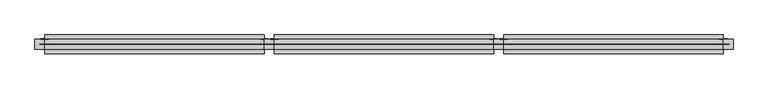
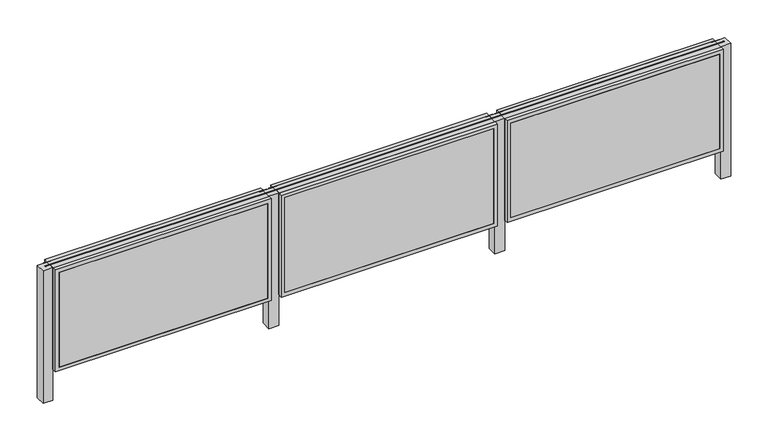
"""IFC4 building model written with IfcOpenShell, lengths in millimetres: railing geometry, NBS_MobilaneUK_CompFncPnls_NoiStop_Wood."""

import ifcopenshell
import ifcopenshell.guid

model = None  # the IFC model being written
_history = None  # IfcOwnerHistory: only IFC2X3 demands one
_inside = {}  # id of a spatial element -> (the spatial element, [elements in it])
_under = {}  # id of a project, library or spatial element -> (it, [spatial elements below it])
_declared = {}  # id of a project -> (the project, [libraries it declares])
_typed = {}  # id of a type object -> (the type object, [elements of that type])
_made_of = {}  # id of a material, layer set ... -> (it, [elements and type objects made of it])


def new_model(schema):
    """Start an empty IFC model of exactly this schema.

    Asked for "IFC4X3", IfcOpenShell would pick the latest addendum, in which some entities
    have other attributes; the version numbers below select the first issue.
    IFC2X3 requires an IfcOwnerHistory on every rooted entity: one is made here for all.
    """
    global model, _history
    if schema == "IFC4X3":
        model = ifcopenshell.file(schema_version=(4, 3, 0, 0))
    else:
        model = ifcopenshell.file(schema=schema)
    _inside.clear()
    _under.clear()
    _declared.clear()
    _typed.clear()
    _made_of.clear()
    _history = None
    if model.schema == "IFC2X3":
        org = make("IfcOrganization", Name="unknown")
        user = make(
            "IfcPersonAndOrganization",
            ThePerson=make("IfcPerson", FamilyName="unknown"),
            TheOrganization=org,
        )
        app = make(
            "IfcApplication",
            ApplicationDeveloper=org,
            Version="unknown",
            ApplicationFullName="unknown",
            ApplicationIdentifier="unknown",
        )
        _history = make(
            "IfcOwnerHistory",
            OwningUser=user,
            OwningApplication=app,
            ChangeAction="ADDED",
            CreationDate=0,
        )
    return model


def make(cls, **values):
    """One entity of the class cls with the attributes given. An attribute that is None is left unset."""
    return model.create_entity(
        cls, **{name: value for name, value in values.items() if value is not None}
    )


def rooted(cls, **values):
    """An entity with a GlobalId (a new one), such as an element, a storey or a relation."""
    return make(cls, GlobalId=ifcopenshell.guid.new(), OwnerHistory=_history, **values)


def si_unit(unit_type, name, prefix=None):
    """IfcSIUnit, for example si_unit("LENGTHUNIT", "METRE", prefix="MILLI")."""
    return make("IfcSIUnit", UnitType=unit_type, Prefix=prefix, Name=name)


def assignment(units):
    """IfcUnitAssignment: the units of a project."""
    return None if units is None else make("IfcUnitAssignment", Units=units)


def point(xyz):
    """IfcCartesianPoint."""
    return None if xyz is None else make("IfcCartesianPoint", Coordinates=xyz)


def direction(xyz):
    """IfcDirection."""
    return None if xyz is None else make("IfcDirection", DirectionRatios=xyz)


def frame(location, z_axis=None, x_axis=None):
    """IfcAxis2Placement3D, a coordinate frame: its origin and axes. An axis left out is left unset."""
    return make(
        "IfcAxis2Placement3D",
        Location=point(location),
        Axis=direction(z_axis),
        RefDirection=direction(x_axis),
    )


def frame_2d(location, x_axis=None):
    """IfcAxis2Placement2D, a coordinate frame in the plane: its origin and x axis."""
    return make(
        "IfcAxis2Placement2D", Location=point(location), RefDirection=direction(x_axis)
    )


def origin():
    """The frame at (0, 0, 0) with its axes left unset."""
    return frame((0.0, 0.0, 0.0))


def origin_with_axes():
    """The frame at (0, 0, 0) with the z axis (0, 0, 1) and the x axis (1, 0, 0) written out."""
    return frame((0.0, 0.0, 0.0), z_axis=(0.0, 0.0, 1.0), x_axis=(1.0, 0.0, 0.0))


def place(relative_to, where):
    """IfcLocalPlacement: puts the frame where relative to a parent placement (None: the world)."""
    return make(
        "IfcLocalPlacement", PlacementRelTo=relative_to, RelativePlacement=where
    )


def context(
    kind, dimensions, precision=None, world=None, true_north=None, identifier=None
):
    """IfcGeometricRepresentationContext, for example the 3D "Model" context."""
    return make(
        "IfcGeometricRepresentationContext",
        ContextIdentifier=identifier,
        ContextType=kind,
        CoordinateSpaceDimension=dimensions,
        Precision=precision,
        WorldCoordinateSystem=world,
        TrueNorth=true_north,
    )


def project(units=None, contexts=None):
    """IfcProject with its units and contexts."""
    return rooted(
        "IfcProject",
        Name="project",
        RepresentationContexts=contexts,
        UnitsInContext=assignment(units),
    )


def spatial(cls, under=None, at=None, **own):
    """A site, building, storey or space (cls), placed at a placement, below another one or the project."""
    s = rooted(cls, ObjectPlacement=at, **own)
    if under is not None:
        _under.setdefault(under.id(), (under, []))[1].append(s)
    return s


def polyline(points):
    """IfcPolyline through the points."""
    return make("IfcPolyline", Points=[point(p) for p in points])


def circle_curve(where, radius):
    """IfcCircle in the frame where."""
    return make("IfcCircle", Position=where, Radius=radius)


def trimmed(basis, trim1, trim2, sense, master):
    """IfcTrimmedCurve: the piece of a basis curve between two trims."""
    return make(
        "IfcTrimmedCurve",
        BasisCurve=basis,
        Trim1=trim1,
        Trim2=trim2,
        SenseAgreement=sense,
        MasterRepresentation=master,
    )


def segment(curve, same_sense, transition):
    """IfcCompositeCurveSegment."""
    return make(
        "IfcCompositeCurveSegment",
        Transition=transition,
        SameSense=same_sense,
        ParentCurve=curve,
    )


def composite_curve(segments, self_intersect=None):
    """IfcCompositeCurve: segments joined end to end."""
    return make("IfcCompositeCurve", Segments=segments, SelfIntersect=self_intersect)


def outline(outer, holes=None, kind="AREA"):
    """IfcArbitraryClosedProfileDef: a profile drawn as a closed curve; with holes, ...WithVoids."""
    if holes is None:
        return make("IfcArbitraryClosedProfileDef", ProfileType=kind, OuterCurve=outer)
    return make(
        "IfcArbitraryProfileDefWithVoids",
        ProfileType=kind,
        OuterCurve=outer,
        InnerCurves=holes,
    )


def extrude(swept, where, along, depth):
    """IfcExtrudedAreaSolid: the profile swept, set in the frame where, extruded along a direction by depth."""
    return make(
        "IfcExtrudedAreaSolid",
        SweptArea=swept,
        Position=where,
        ExtrudedDirection=direction(along),
        Depth=depth,
    )


def shape(context_of_items, identifier, shape_type, items):
    """IfcShapeRepresentation: the items that make up one representation, for example the "Body"."""
    return make(
        "IfcShapeRepresentation",
        ContextOfItems=context_of_items,
        RepresentationIdentifier=identifier,
        RepresentationType=shape_type,
        Items=items,
    )


def source(mapping_origin, context_of_items, identifier, shape_type, items):
    """IfcRepresentationMap: a shape defined once, which mapped items show again and again."""
    return make(
        "IfcRepresentationMap",
        MappingOrigin=mapping_origin,
        MappedRepresentation=shape(context_of_items, identifier, shape_type, items),
    )


def transform(
    local_origin,
    x_axis=None,
    y_axis=None,
    z_axis=None,
    scale=None,
    scale2=None,
    scale3=None,
    uniform=True,
):
    """IfcCartesianTransformationOperator3D, or its non-uniform kind. x_axis, y_axis, z_axis: its Axis1, 2, 3."""
    if uniform:
        return make(
            "IfcCartesianTransformationOperator3D",
            Axis1=direction(x_axis),
            Axis2=direction(y_axis),
            LocalOrigin=point(local_origin),
            Scale=scale,
            Axis3=direction(z_axis),
        )
    return make(
        "IfcCartesianTransformationOperator3DnonUniform",
        Axis1=direction(x_axis),
        Axis2=direction(y_axis),
        LocalOrigin=point(local_origin),
        Scale=scale,
        Axis3=direction(z_axis),
        Scale2=scale2,
        Scale3=scale3,
    )


def mapped(mapping_source, mapping_target):
    """IfcMappedItem: shows the shape of a source again, moved by a transform."""
    return make(
        "IfcMappedItem", MappingSource=mapping_source, MappingTarget=mapping_target
    )


def made_of(thing, what):
    """Note that an element or type object is made of a material, layer set ...; save() writes the relation."""
    if what is not None:
        _made_of.setdefault(what.id(), (what, []))[1].append(thing)
    return thing


def element(
    cls,
    number,
    at=None,
    inside=None,
    cuts=None,
    type_object=None,
    material=None,
    context=None,
    identifier="Body",
    shape_type=None,
    held_by="IfcProductDefinitionShape",
    body=None,
    shapes=None,
    **own,
):
    """One element of the class cls, such as IfcWall. Its Tag is "e" and its number.

    at: its placement. inside: the storey or other place that contains it. cuts: it is an
    opening in that element (IfcRelVoidsElement). A single representation is given by context,
    identifier, shape_type and body (its items); several are given by shapes. held_by: the class
    of the entity that holds the representations. save() writes the other relations.
    """
    e = rooted(cls, Tag="e%d" % number, ObjectPlacement=at, **own)
    if body is not None:
        shapes = [shape(context, identifier, shape_type, body)]
    if shapes is not None:
        e.Representation = make(held_by, Representations=shapes)
    if inside is not None:
        _inside.setdefault(inside.id(), (inside, []))[1].append(e)
    if cuts is not None:
        rooted(
            "IfcRelVoidsElement", RelatingBuildingElement=cuts, RelatedOpeningElement=e
        )
    if type_object is not None:
        _typed.setdefault(type_object.id(), (type_object, []))[1].append(e)
    return made_of(e, material)


def aggregate(whole, parts):
    """IfcRelAggregates: a whole, such as a stair, and the parts it consists of."""
    return rooted("IfcRelAggregates", RelatingObject=whole, RelatedObjects=parts)


def save(model, path):
    """Write the relations noted so far, then the file.

    IfcRelAggregates (storeys below a building ...), IfcRelContainedInSpatialStructure (elements
    in a storey), IfcRelDefinesByType, IfcRelAssociatesMaterial and IfcRelDeclares: one each for
    every whole, place, type object, material and project.
    """
    for whole, parts in _under.values():
        aggregate(whole, parts)
    for where, things in _inside.values():
        rooted(
            "IfcRelContainedInSpatialStructure",
            RelatedElements=things,
            RelatingStructure=where,
        )
    for kind, things in _typed.values():
        rooted("IfcRelDefinesByType", RelatedObjects=things, RelatingType=kind)
    for what, things in _made_of.values():
        rooted("IfcRelAssociatesMaterial", RelatedObjects=things, RelatingMaterial=what)
    for by, libraries in _declared.values():
        rooted("IfcRelDeclares", RelatingContext=by, RelatedDefinitions=libraries)
    model.write(path)


def railing_a675b463(model_context):
    return source(origin(), model_context, "Body", "SweptSolid", [
        extrude(outline(composite_curve([segment(trimmed(circle_curve(frame_2d((0.0, 1000.0)), 2.5), [point((2.5, 1000.0))], [point((-2.5, 1000.0))], False, "CARTESIAN"), True, "CONTINUOUS"), segment(trimmed(circle_curve(frame_2d((0.0, 1000.0)), 2.5), [point((-2.5, 1000.0))], [point((2.5, 1000.0))], False, "CARTESIAN"), True, "CONTINUOUS")], self_intersect=False)), frame((7157.2324746, 0.0, 0.0), z_axis=(1.0, 0.0, 0.0), x_axis=(0.0, 1.0, 0.0)), (0.0, 0.0, 1.0), 6280.0),
        extrude(outline(polyline([(13472.2324746, -45.0), (13382.2324746, -45.0), (13382.2324746, 45.0), (13472.2324746, 45.0), (13472.2324746, -45.0)])), frame((0.0, 0.0, -300.0), z_axis=(0.0, 0.0, 1.0), x_axis=(1.0, 0.0, 0.0)), (0.0, 0.0, 1.0), 1297.5),
        extrude(outline(polyline([(997.5, 11382.2324746), (0.0, 11382.2324746), (0.0, 13382.2324746), (997.5, 13382.2324746), (997.5, 11382.2324746)]), holes=[polyline([(962.5, 11417.2324746), (962.5, 13347.2324746), (35.0, 13347.2324746), (35.0, 11417.2324746), (962.5, 11417.2324746)])]), frame((0.0, 50.0, 0.0), z_axis=(0.0, 1.0, 0.0), x_axis=(0.0, 0.0, 1.0)), (0.0, 0.0, 1.0), 35.0),
        extrude(outline(polyline([(997.5, 11382.2324746), (0.0, 11382.2324746), (0.0, 13382.2324746), (997.5, 13382.2324746), (997.5, 11382.2324746)]), holes=[polyline([(962.5, 11417.2324746), (962.5, 13347.2324746), (35.0, 13347.2324746), (35.0, 11417.2324746), (962.5, 11417.2324746)])]), frame((0.0, -85.0, 0.0), z_axis=(0.0, 1.0, 0.0), x_axis=(0.0, 0.0, 1.0)), (0.0, 0.0, 1.0), 35.0),
        extrude(outline(polyline([(13347.2324746, 50.0), (13417.2324746, 50.0), (13417.2324746, 45.0), (13347.2324746, 45.0), (13347.2324746, 50.0)])), origin_with_axes(), (0.0, 0.0, 1.0), 997.5),
        extrude(outline(polyline([(11347.2324746, 50.0), (11417.2324746, 50.0), (11417.2324746, 45.0), (11347.2324746, 45.0), (11347.2324746, 50.0)])), origin_with_axes(), (0.0, 0.0, 1.0), 997.5),
        extrude(outline(polyline([(11382.2324746, 50.0), (13382.2324746, 50.0), (13382.2324746, -50.0), (11382.2324746, -50.0), (11382.2324746, 50.0)])), origin_with_axes(), (0.0, 0.0, 1.0), 997.5),
        extrude(outline(polyline([(11417.2324746, -50.0), (13347.2324746, -50.0), (13347.2324746, -85.0), (11417.2324746, -85.0), (11417.2324746, -50.0)])), frame((0.0, 0.0, 35.0), z_axis=(0.0, 0.0, 1.0), x_axis=(1.0, 0.0, 0.0)), (0.0, 0.0, 1.0), 927.5),
        extrude(outline(polyline([(11417.2324746, 85.0), (13347.2324746, 85.0), (13347.2324746, 50.0), (11417.2324746, 50.0), (11417.2324746, 85.0)])), frame((0.0, 0.0, 35.0), z_axis=(0.0, 0.0, 1.0), x_axis=(1.0, 0.0, 0.0)), (0.0, 0.0, 1.0), 927.5),
        extrude(outline(polyline([(11382.2324746, -45.0), (11292.2324746, -45.0), (11292.2324746, 45.0), (11382.2324746, 45.0), (11382.2324746, -45.0)])), frame((0.0, 0.0, -300.0), z_axis=(0.0, 0.0, 1.0), x_axis=(1.0, 0.0, 0.0)), (0.0, 0.0, 1.0), 1297.5),
        extrude(outline(polyline([(997.5, 9292.2324746), (0.0, 9292.2324746), (0.0, 11292.2324746), (997.5, 11292.2324746), (997.5, 9292.2324746)]), holes=[polyline([(962.5, 9327.2324746), (962.5, 11257.2324746), (35.0, 11257.2324746), (35.0, 9327.2324746), (962.5, 9327.2324746)])]), frame((0.0, 50.0, 0.0), z_axis=(0.0, 1.0, 0.0), x_axis=(0.0, 0.0, 1.0)), (0.0, 0.0, 1.0), 35.0),
        extrude(outline(polyline([(997.5, 9292.2324746), (0.0, 9292.2324746), (0.0, 11292.2324746), (997.5, 11292.2324746), (997.5, 9292.2324746)]), holes=[polyline([(962.5, 9327.2324746), (962.5, 11257.2324746), (35.0, 11257.2324746), (35.0, 9327.2324746), (962.5, 9327.2324746)])]), frame((0.0, -85.0, 0.0), z_axis=(0.0, 1.0, 0.0), x_axis=(0.0, 0.0, 1.0)), (0.0, 0.0, 1.0), 35.0),
        extrude(outline(polyline([(11257.2324746, 50.0), (11327.2324746, 50.0), (11327.2324746, 45.0), (11257.2324746, 45.0), (11257.2324746, 50.0)])), origin_with_axes(), (0.0, 0.0, 1.0), 997.5),
        extrude(outline(polyline([(9257.2324746, 50.0), (9327.2324746, 50.0), (9327.2324746, 45.0), (9257.2324746, 45.0), (9257.2324746, 50.0)])), origin_with_axes(), (0.0, 0.0, 1.0), 997.5),
        extrude(outline(polyline([(9292.2324746, 50.0), (11292.2324746, 50.0), (11292.2324746, -50.0), (9292.2324746, -50.0), (9292.2324746, 50.0)])), origin_with_axes(), (0.0, 0.0, 1.0), 997.5),
        extrude(outline(polyline([(9327.2324746, -50.0), (11257.2324746, -50.0), (11257.2324746, -85.0), (9327.2324746, -85.0), (9327.2324746, -50.0)])), frame((0.0, 0.0, 35.0), z_axis=(0.0, 0.0, 1.0), x_axis=(1.0, 0.0, 0.0)), (0.0, 0.0, 1.0), 927.5),
        extrude(outline(polyline([(9327.2324746, 85.0), (11257.2324746, 85.0), (11257.2324746, 50.0), (9327.2324746, 50.0), (9327.2324746, 85.0)])), frame((0.0, 0.0, 35.0), z_axis=(0.0, 0.0, 1.0), x_axis=(1.0, 0.0, 0.0)), (0.0, 0.0, 1.0), 927.5),
        extrude(outline(polyline([(9292.2324746, -45.0), (9202.2324746, -45.0), (9202.2324746, 45.0), (9292.2324746, 45.0), (9292.2324746, -45.0)])), frame((0.0, 0.0, -300.0), z_axis=(0.0, 0.0, 1.0), x_axis=(1.0, 0.0, 0.0)), (0.0, 0.0, 1.0), 1297.5),
        extrude(outline(polyline([(997.5, 7202.2324746), (0.0, 7202.2324746), (0.0, 9202.2324746), (997.5, 9202.2324746), (997.5, 7202.2324746)]), holes=[polyline([(962.5, 7237.2324746), (962.5, 9167.2324746), (35.0, 9167.2324746), (35.0, 7237.2324746), (962.5, 7237.2324746)])]), frame((0.0, 50.0, 0.0), z_axis=(0.0, 1.0, 0.0), x_axis=(0.0, 0.0, 1.0)), (0.0, 0.0, 1.0), 35.0),
        extrude(outline(polyline([(997.5, 7202.2324746), (0.0, 7202.2324746), (0.0, 9202.2324746), (997.5, 9202.2324746), (997.5, 7202.2324746)]), holes=[polyline([(962.5, 7237.2324746), (962.5, 9167.2324746), (35.0, 9167.2324746), (35.0, 7237.2324746), (962.5, 7237.2324746)])]), frame((0.0, -85.0, 0.0), z_axis=(0.0, 1.0, 0.0), x_axis=(0.0, 0.0, 1.0)), (0.0, 0.0, 1.0), 35.0),
        extrude(outline(polyline([(9167.2324746, 50.0), (9237.2324746, 50.0), (9237.2324746, 45.0), (9167.2324746, 45.0), (9167.2324746, 50.0)])), origin_with_axes(), (0.0, 0.0, 1.0), 997.5),
        extrude(outline(polyline([(7167.2324746, 50.0), (7237.2324746, 50.0), (7237.2324746, 45.0), (7167.2324746, 45.0), (7167.2324746, 50.0)])), origin_with_axes(), (0.0, 0.0, 1.0), 997.5),
        extrude(outline(polyline([(7202.2324746, 50.0), (9202.2324746, 50.0), (9202.2324746, -50.0), (7202.2324746, -50.0), (7202.2324746, 50.0)])), origin_with_axes(), (0.0, 0.0, 1.0), 997.5),
        extrude(outline(polyline([(7237.2324746, -50.0), (9167.2324746, -50.0), (9167.2324746, -85.0), (7237.2324746, -85.0), (7237.2324746, -50.0)])), frame((0.0, 0.0, 35.0), z_axis=(0.0, 0.0, 1.0), x_axis=(1.0, 0.0, 0.0)), (0.0, 0.0, 1.0), 927.5),
        extrude(outline(polyline([(7237.2324746, 85.0), (9167.2324746, 85.0), (9167.2324746, 50.0), (7237.2324746, 50.0), (7237.2324746, 85.0)])), frame((0.0, 0.0, 35.0), z_axis=(0.0, 0.0, 1.0), x_axis=(1.0, 0.0, 0.0)), (0.0, 0.0, 1.0), 927.5),
        extrude(outline(polyline([(7202.2324746, -45.0), (7112.2324746, -45.0), (7112.2324746, 45.0), (7202.2324746, 45.0), (7202.2324746, -45.0)])), frame((0.0, 0.0, -300.0), z_axis=(0.0, 0.0, 1.0), x_axis=(1.0, 0.0, 0.0)), (0.0, 0.0, 1.0), 1297.5),
    ])


if __name__ == "__main__":
    model = new_model("IFC4")
    model_context = context("Model", 3, world=origin())
    ifc_project = project(units=[si_unit("LENGTHUNIT", "METRE", prefix="MILLI")], contexts=[model_context])
    site = spatial("IfcSite", under=ifc_project)
    building = spatial("IfcBuilding", under=site)
    placement = place(None, origin())
    railing_shape = railing_a675b463(model_context)
    element("IfcRailing", 1, ObjectType="NBS_MobilaneUK_CompFncPnls_NoiStop_Wood", at=placement, inside=building, context=model_context, shape_type="MappedRepresentation", body=[
        mapped(railing_shape, transform((0.0, 0.0, 0.0), x_axis=(1.0, 0.0, 0.0), y_axis=(0.0, 1.0, 0.0), z_axis=(0.0, 0.0, 1.0))),
    ])
    save(model, "model.ifc")
